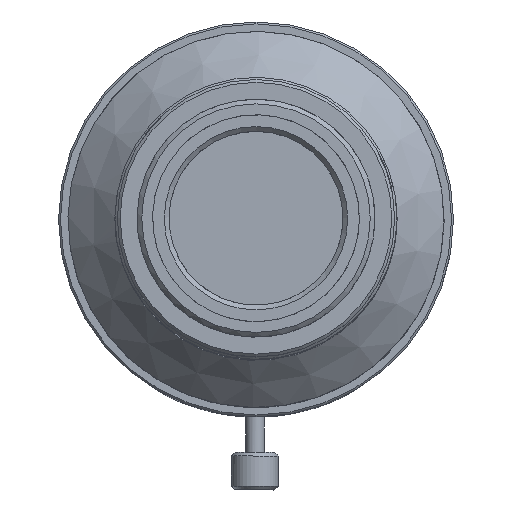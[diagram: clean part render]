
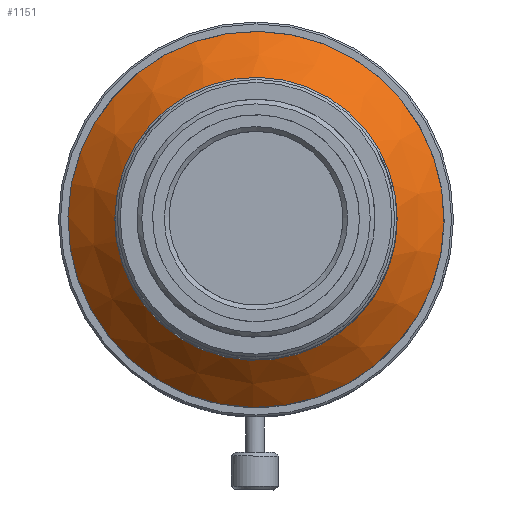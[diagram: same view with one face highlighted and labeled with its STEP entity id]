
A CAD part, top view. The second image highlights one B-rep face of the part: STEP entity #1151.
In plain terms, the highlighted conical face has half-angle 45 degrees and reference radius 20 mm.
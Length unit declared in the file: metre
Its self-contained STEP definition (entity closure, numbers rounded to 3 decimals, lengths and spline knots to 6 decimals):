
#1151=ADVANCED_FACE('15:852',(#2942,#2943),#2944,.T.);
#2159=EDGE_CURVE('15:2016',#4385,#4385,#4386,.T.);
#2161=EDGE_CURVE('15:2001',#4388,#4388,#4389,.T.);
#2942=FACE_OUTER_BOUND('',#6999,.T.);
#2943=FACE_BOUND('',#7000,.T.);
#2944=CONICAL_SURFACE('',#7001,0.02,0.785);
#4385=VERTEX_POINT('',#12526);
#4386=CIRCLE('',#12527,0.015);
#4388=VERTEX_POINT('',#12530);
#4389=CIRCLE('',#12531,0.02);
#6999=EDGE_LOOP('',(#14486));
#7000=EDGE_LOOP('',(#14487));
#7001=AXIS2_PLACEMENT_3D('',#14488,#14489,#14490);
#12526=CARTESIAN_POINT('',(-0.014162,0.001897,0.03258));
#12527=AXIS2_PLACEMENT_3D('',#15465,#15466,#15467);
#12530=CARTESIAN_POINT('',(-0.018916,-0.001231,0.02758));
#12531=AXIS2_PLACEMENT_3D('',#15468,#15469,#15470);
#14486=ORIENTED_EDGE('',*,*,#2161,.F.);
#14487=ORIENTED_EDGE('',*,*,#2159,.F.);
#14488=CARTESIAN_POINT('',(0.000838,0.001897,0.02758));
#14489=DIRECTION('',(0.,0.,-1.0));
#14490=DIRECTION('',(-0.988,-0.156,0.));
#15465=CARTESIAN_POINT('',(0.000838,0.001897,0.03258));
#15466=DIRECTION('',(0.,-0.0,1.0));
#15467=DIRECTION('',(-1.0,0.0,0.));
#15468=CARTESIAN_POINT('',(0.000838,0.001897,0.02758));
#15469=DIRECTION('',(0.,0.,-1.0));
#15470=DIRECTION('',(-0.988,-0.156,0.));
